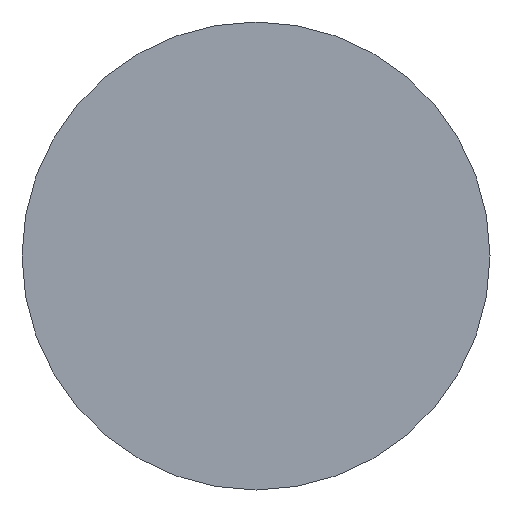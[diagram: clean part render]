
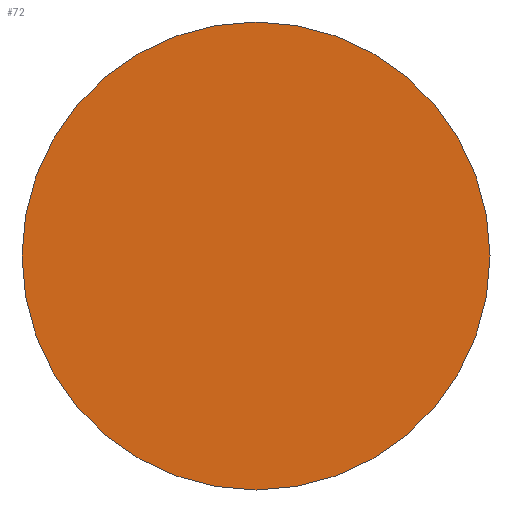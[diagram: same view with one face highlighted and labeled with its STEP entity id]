
A CAD part, left-side view. The second image highlights one B-rep face of the part: STEP entity #72.
In plain terms, the highlighted planar face has unit normal (-1, 0, 0).
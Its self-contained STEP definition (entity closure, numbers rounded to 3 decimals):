
#13 = AXIS2_PLACEMENT_3D ( 'NONE', #253, #99, #219 ) ;
#32 = DIRECTION ( 'NONE',  ( 0., 1., 0. ) ) ;
#38 = DIRECTION ( 'NONE',  ( 1., 0., 0. ) ) ;
#56 = CIRCLE ( 'NONE', #13, 6. ) ;
#68 = CARTESIAN_POINT ( 'NONE',  ( 0., 0., 0. ) ) ;
#72 = ADVANCED_FACE ( 'NONE', ( #213 ), #201, .T. ) ;
#91 = DIRECTION ( 'NONE',  ( 0., -1., 0. ) ) ;
#99 = DIRECTION ( 'NONE',  ( 1., 0., 0. ) ) ;
#100 = ORIENTED_EDGE ( 'NONE', *, *, #188, .F. ) ;
#101 = EDGE_CURVE ( 'NONE', #191, #140, #262, .T. ) ;
#125 = DIRECTION ( 'NONE',  ( -1., 0., 0. ) ) ;
#132 = CARTESIAN_POINT ( 'NONE',  ( 0., 6., 0. ) ) ;
#140 = VERTEX_POINT ( 'NONE', #132 ) ;
#180 = EDGE_LOOP ( 'NONE', ( #100, #192 ) ) ;
#188 = EDGE_CURVE ( 'NONE', #140, #191, #56, .T. ) ;
#191 = VERTEX_POINT ( 'NONE', #271 ) ;
#192 = ORIENTED_EDGE ( 'NONE', *, *, #101, .F. ) ;
#201 = PLANE ( 'NONE',  #237 ) ;
#213 = FACE_OUTER_BOUND ( 'NONE', #180, .T. ) ;
#219 = DIRECTION ( 'NONE',  ( 0., 1., 0. ) ) ;
#237 = AXIS2_PLACEMENT_3D ( 'NONE', #68, #125, #91 ) ;
#253 = CARTESIAN_POINT ( 'NONE',  ( 0., 0., 0. ) ) ;
#262 = CIRCLE ( 'NONE', #267, 6. ) ;
#267 = AXIS2_PLACEMENT_3D ( 'NONE', #272, #38, #32 ) ;
#271 = CARTESIAN_POINT ( 'NONE',  ( 0., -6., 0. ) ) ;
#272 = CARTESIAN_POINT ( 'NONE',  ( 0., 0., 0. ) ) ;
